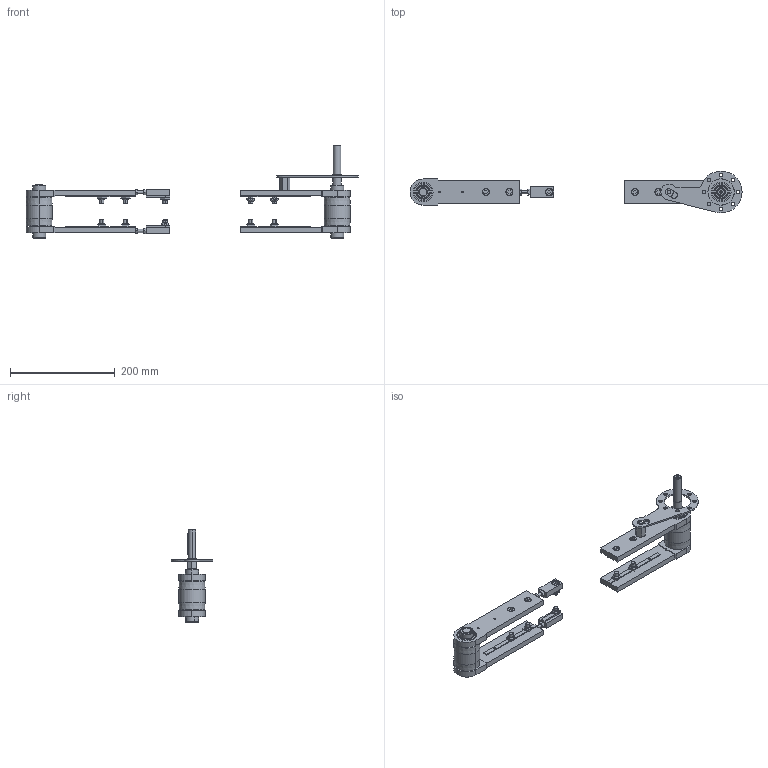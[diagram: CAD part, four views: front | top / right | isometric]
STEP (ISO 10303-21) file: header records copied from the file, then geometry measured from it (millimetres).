
FILE_DESCRIPTION (( 'STEP AP214' ), '1' );
FILE_NAME ('084.815.032.STEP', '2020-01-24T15:25:20', ( 'Localadmin' ), ( 'Microsoft' ), 'SwSTEP 2.0', 'SolidWorks 2018', '' );
FILE_SCHEMA (( 'AUTOMOTIVE_DESIGN' ));
Length unit declared in the file: millimetre
Products named in the file (12): 084.301.000 VITI ALUSIC_084.301.003; 084.815.124; 084.802.017_084.802.017; 084.807.003_084.807.003; 084.815.125; 084.815.032; CHIAVETTE_A 5x5x40 UNI 6604-69; 084.802.008; 084.807.002_084.807.002; 084.807.005; 084.802.027; 084.302.000 DADI ALUSIC 13x13_084.302.004
Assembly tree (35 placements, depth 2):
  084.815.032
    084.815.125
    084.807.003_084.807.003
    084.802.017_084.802.017  x4
    084.815.124
    084.301.000 VITI ALUSIC_084.301.003  x10
    084.302.000 DADI ALUSIC 13x13_084.302.004  x10
    084.802.027
    084.807.005
    084.807.002_084.807.002  x3
    084.802.008  x2
    CHIAVETTE_A 5x5x40 UNI 6604-69
Bounding box: 635 x 80 x 178 mm (x, y, z)
Volume: 709565.2 mm3; surface area: 216342.9 mm2
Topology: 43 solids, 47 shells, 926 faces, 2254 edges, 1445 vertices
Faces by surface type: plane 460, cylinder 298, torus 80, cone 72, sphere 16
Entity records: 11705 total; most frequent: CARTESIAN_POINT 2222, DIRECTION 1962, ORIENTED_EDGE 1708, EDGE_CURVE 854, AXIS2_PLACEMENT_3D 770, VERTEX_POINT 550, EDGE_LOOP 424, VECTOR 422
